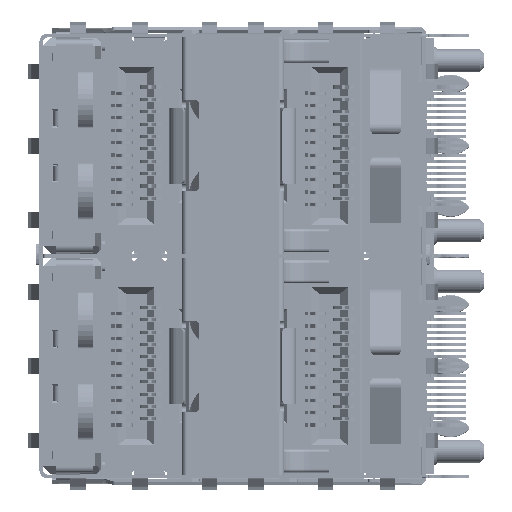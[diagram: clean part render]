
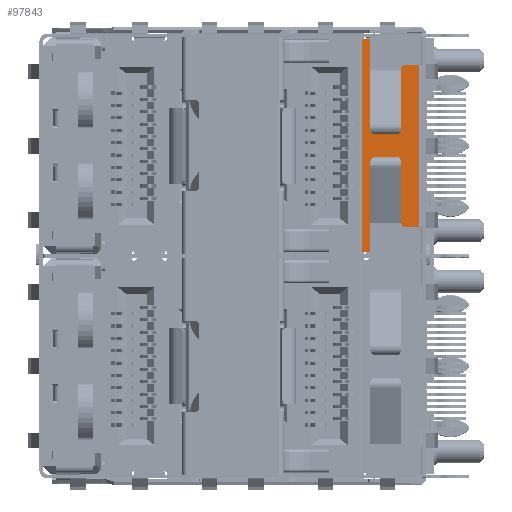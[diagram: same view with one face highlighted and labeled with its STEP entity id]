
A CAD part, left-side view. The second image highlights one B-rep face of the part: STEP entity #97843.
In plain terms, the highlighted planar face has unit normal (-1, 0, 0) as drawn and (0, 0, 1) by its records, which use the part's own axes.
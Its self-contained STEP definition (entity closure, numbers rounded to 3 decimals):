
#93257 = EDGE_CURVE ( 'NONE', #200432, #200518, #313948, .T. ) ;
#94011 = EDGE_CURVE ( 'NONE', #201073, #201151, #307126, .T. ) ;
#97843 = ADVANCED_FACE ( 'NONE', ( #299567 ), #110808, .T. ) ;
#110691 = DIRECTION ( 'NONE',  ( 0., 0., 1. ) ) ;
#110733 = DIRECTION ( 'NONE',  ( 1., 0., 0. ) ) ;
#110808 = PLANE ( 'NONE',  #297070 ) ;
#110819 = CARTESIAN_POINT ( 'NONE',  ( 0., 0., -9.65 ) ) ;
#141893 = CARTESIAN_POINT ( 'NONE',  ( -5.37, 1., -9.65 ) ) ;
#141987 = CARTESIAN_POINT ( 'NONE',  ( 6.87, 4.625, -9.65 ) ) ;
#142278 = CARTESIAN_POINT ( 'NONE',  ( -5.37, 2.5, -9.65 ) ) ;
#142411 = CARTESIAN_POINT ( 'NONE',  ( 6.87, 2.5, -9.65 ) ) ;
#143333 = CARTESIAN_POINT ( 'NONE',  ( 5.37, 2.5, -9.65 ) ) ;
#143364 = CARTESIAN_POINT ( 'NONE',  ( 5.37, 1., -9.65 ) ) ;
#144013 = CARTESIAN_POINT ( 'NONE',  ( -6.87, 2.5, -9.65 ) ) ;
#144527 = CARTESIAN_POINT ( 'NONE',  ( -6.87, 4.625, -9.65 ) ) ;
#163976 = ORIENTED_EDGE ( 'NONE', *, *, #93257, .F. ) ;
#163994 = ORIENTED_EDGE ( 'NONE', *, *, #331753, .F. ) ;
#164079 = ORIENTED_EDGE ( 'NONE', *, *, #331816, .T. ) ;
#164145 = ORIENTED_EDGE ( 'NONE', *, *, #94011, .F. ) ;
#164169 = ORIENTED_EDGE ( 'NONE', *, *, #331616, .F. ) ;
#164187 = ORIENTED_EDGE ( 'NONE', *, *, #331607, .T. ) ;
#164191 = ORIENTED_EDGE ( 'NONE', *, *, #331762, .T. ) ;
#164240 = ORIENTED_EDGE ( 'NONE', *, *, #331636, .F. ) ;
#199375 = VERTEX_POINT ( 'NONE', #141987 ) ;
#199431 = VERTEX_POINT ( 'NONE', #141893 ) ;
#199513 = VERTEX_POINT ( 'NONE', #142278 ) ;
#199532 = VERTEX_POINT ( 'NONE', #142411 ) ;
#200432 = VERTEX_POINT ( 'NONE', #143333 ) ;
#200518 = VERTEX_POINT ( 'NONE', #143364 ) ;
#201073 = VERTEX_POINT ( 'NONE', #144013 ) ;
#201151 = VERTEX_POINT ( 'NONE', #144527 ) ;
#275488 = EDGE_LOOP ( 'NONE', ( #164079, #164191, #163976, #163994, #164240, #164187, #164145, #164169 ) ) ;
#292479 = DIRECTION ( 'NONE',  ( -1., 0., 0. ) ) ;
#292853 = CARTESIAN_POINT ( 'NONE',  ( 0., 4.625, -9.65 ) ) ;
#292864 = CARTESIAN_POINT ( 'NONE',  ( 6.87, 4.8, -9.65 ) ) ;
#292886 = DIRECTION ( 'NONE',  ( 0., -1., 0. ) ) ;
#293022 = DIRECTION ( 'NONE',  ( -1., 0., 0. ) ) ;
#293226 = CARTESIAN_POINT ( 'NONE',  ( -5.37, 2.5, -9.65 ) ) ;
#293979 = CARTESIAN_POINT ( 'NONE',  ( 5.37, 2.5, -9.65 ) ) ;
#294025 = CARTESIAN_POINT ( 'NONE',  ( -6.98, 1., -9.65 ) ) ;
#294062 = DIRECTION ( 'NONE',  ( 1., 0., 0. ) ) ;
#294117 = DIRECTION ( 'NONE',  ( -1., 0., 0. ) ) ;
#297070 = AXIS2_PLACEMENT_3D ( 'NONE', #110819, #110691, #110733 ) ;
#299567 = FACE_OUTER_BOUND ( 'NONE', #275488, .T. ) ;
#302059 = VECTOR ( 'NONE', #292886, 1000. ) ;
#302089 = LINE ( 'NONE', #293226, #302093 ) ;
#302093 = VECTOR ( 'NONE', #293022, 1000. ) ;
#302101 = LINE ( 'NONE', #292853, #302115 ) ;
#302115 = VECTOR ( 'NONE', #292479, 1000. ) ;
#302139 = LINE ( 'NONE', #292864, #302059 ) ;
#302349 = VECTOR ( 'NONE', #294117, 1000. ) ;
#302355 = LINE ( 'NONE', #294025, #302371 ) ;
#302365 = VECTOR ( 'NONE', #303575, 1000. ) ;
#302371 = VECTOR ( 'NONE', #294062, 1000. ) ;
#302395 = LINE ( 'NONE', #293979, #302349 ) ;
#302435 = LINE ( 'NONE', #303599, #302365 ) ;
#303575 = DIRECTION ( 'NONE',  ( 0., -1., 0. ) ) ;
#303599 = CARTESIAN_POINT ( 'NONE',  ( -5.37, 2.5, -9.65 ) ) ;
#307126 = LINE ( 'NONE', #307155, #307157 ) ;
#307129 = DIRECTION ( 'NONE',  ( 0., 1., 0. ) ) ;
#307155 = CARTESIAN_POINT ( 'NONE',  ( -6.87, 4.8, -9.65 ) ) ;
#307157 = VECTOR ( 'NONE', #307129, 1000. ) ;
#312652 = DIRECTION ( 'NONE',  ( 0., -1., 0. ) ) ;
#312724 = CARTESIAN_POINT ( 'NONE',  ( 5.37, 2.5, -9.65 ) ) ;
#313931 = VECTOR ( 'NONE', #312652, 1000. ) ;
#313948 = LINE ( 'NONE', #312724, #313931 ) ;
#331607 = EDGE_CURVE ( 'NONE', #199375, #201151, #302101, .T. ) ;
#331616 = EDGE_CURVE ( 'NONE', #199513, #201073, #302089, .T. ) ;
#331636 = EDGE_CURVE ( 'NONE', #199375, #199532, #302139, .T. ) ;
#331753 = EDGE_CURVE ( 'NONE', #199532, #200432, #302395, .T. ) ;
#331762 = EDGE_CURVE ( 'NONE', #199431, #200518, #302355, .T. ) ;
#331816 = EDGE_CURVE ( 'NONE', #199513, #199431, #302435, .T. ) ;
